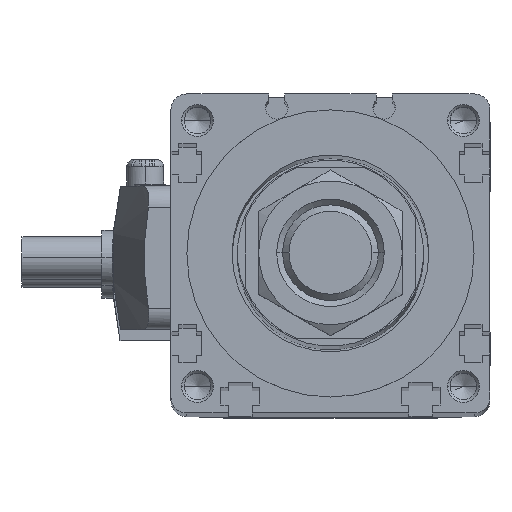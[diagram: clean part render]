
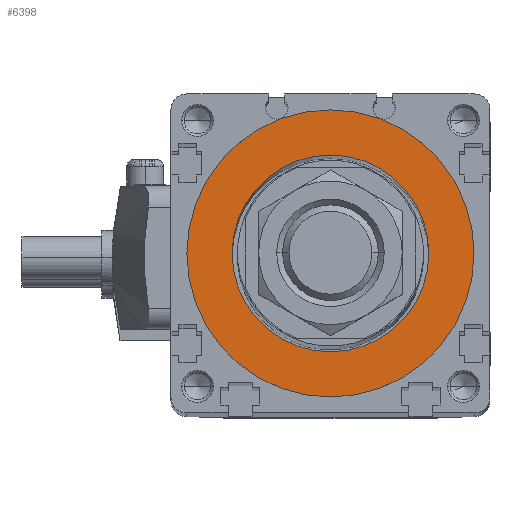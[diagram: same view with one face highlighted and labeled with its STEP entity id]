
A CAD part, top view. The second image highlights one B-rep face of the part: STEP entity #6398.
In plain terms, the highlighted planar face has unit normal (0, 0, 1).
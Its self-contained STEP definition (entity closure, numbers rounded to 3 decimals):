
#274 = DIRECTION ( 'NONE',  ( 0., 0., 1. ) ) ;
#527 = AXIS2_PLACEMENT_3D ( 'NONE', #3218, #10296, #4205 ) ;
#736 = FACE_OUTER_BOUND ( 'NONE', #3973, .T. ) ;
#1800 = CARTESIAN_POINT ( 'NONE',  ( -18.5, 0., 391.1 ) ) ;
#2888 = CARTESIAN_POINT ( 'NONE',  ( 0., 0., 391.1 ) ) ;
#3083 = CARTESIAN_POINT ( 'NONE',  ( 0., 0., 391.1 ) ) ;
#3218 = CARTESIAN_POINT ( 'NONE',  ( 0., 0., 391.1 ) ) ;
#3509 = DIRECTION ( 'NONE',  ( 0., 0., 1. ) ) ;
#3885 = DIRECTION ( 'NONE',  ( 1., 0., 0. ) ) ;
#3969 = AXIS2_PLACEMENT_3D ( 'NONE', #6363, #274, #7382 ) ;
#3973 = EDGE_LOOP ( 'NONE', ( #10037, #10847 ) ) ;
#4064 = DIRECTION ( 'NONE',  ( 1., 0., 0. ) ) ;
#4205 = DIRECTION ( 'NONE',  ( 1., 0., 0. ) ) ;
#4478 = ORIENTED_EDGE ( 'NONE', *, *, #13156, .T. ) ;
#4995 = EDGE_CURVE ( 'NONE', #9327, #9506, #10302, .T. ) ;
#5252 = VERTEX_POINT ( 'NONE', #1800 ) ;
#5352 = CARTESIAN_POINT ( 'NONE',  ( -27., 0., 391.1 ) ) ;
#5458 = AXIS2_PLACEMENT_3D ( 'NONE', #5507, #3509, #10609 ) ;
#5507 = CARTESIAN_POINT ( 'NONE',  ( -30., 30., 391.1 ) ) ;
#5693 = EDGE_CURVE ( 'NONE', #9506, #9327, #8712, .T. ) ;
#6307 = AXIS2_PLACEMENT_3D ( 'NONE', #3083, #10165, #4064 ) ;
#6363 = CARTESIAN_POINT ( 'NONE',  ( 0., 0., 391.1 ) ) ;
#6398 = ADVANCED_FACE ( 'NONE', ( #8534, #736 ), #8571, .T. ) ;
#6945 = EDGE_CURVE ( 'NONE', #10569, #5252, #12487, .T. ) ;
#7382 = DIRECTION ( 'NONE',  ( 1., 0., 0. ) ) ;
#7794 = CIRCLE ( 'NONE', #10386, 18.5 ) ;
#8534 = FACE_BOUND ( 'NONE', #12070, .T. ) ;
#8571 = PLANE ( 'NONE',  #5458 ) ;
#8712 = CIRCLE ( 'NONE', #527, 27. ) ;
#9327 = VERTEX_POINT ( 'NONE', #10084 ) ;
#9506 = VERTEX_POINT ( 'NONE', #5352 ) ;
#9957 = DIRECTION ( 'NONE',  ( 0., 0., -1. ) ) ;
#10037 = ORIENTED_EDGE ( 'NONE', *, *, #4995, .T. ) ;
#10084 = CARTESIAN_POINT ( 'NONE',  ( 27., 0., 391.1 ) ) ;
#10165 = DIRECTION ( 'NONE',  ( 0., 0., -1. ) ) ;
#10235 = ORIENTED_EDGE ( 'NONE', *, *, #6945, .T. ) ;
#10296 = DIRECTION ( 'NONE',  ( 0., 0., 1. ) ) ;
#10302 = CIRCLE ( 'NONE', #3969, 27. ) ;
#10386 = AXIS2_PLACEMENT_3D ( 'NONE', #2888, #9957, #3885 ) ;
#10569 = VERTEX_POINT ( 'NONE', #10749 ) ;
#10609 = DIRECTION ( 'NONE',  ( 1., 0., 0. ) ) ;
#10749 = CARTESIAN_POINT ( 'NONE',  ( 18.5, 0., 391.1 ) ) ;
#10847 = ORIENTED_EDGE ( 'NONE', *, *, #5693, .T. ) ;
#12070 = EDGE_LOOP ( 'NONE', ( #4478, #10235 ) ) ;
#12487 = CIRCLE ( 'NONE', #6307, 18.5 ) ;
#13156 = EDGE_CURVE ( 'NONE', #5252, #10569, #7794, .T. ) ;
